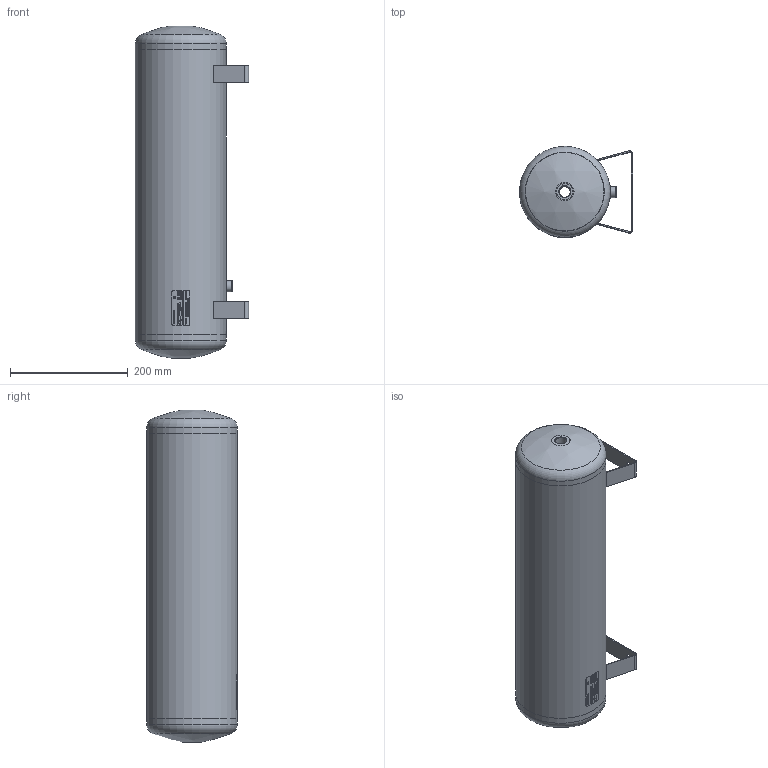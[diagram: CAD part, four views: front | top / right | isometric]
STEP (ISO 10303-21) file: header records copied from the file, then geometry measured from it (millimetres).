
FILE_DESCRIPTION(/* description */ (''),/* implementation_level */ '2;1');
FILE_NAME(/* name */ 'ATNL0100-SS 10.00L.stp',/* time_stamp */ '2022-11-07T13:24:39+01:00',/* author */ ('harm'),/* organization */ (''),/* preprocessor_version */ 'ST-DEVELOPER v19.2',/* originating_system */ 'Autodesk Inventor 2023',/* authorisation */ '');
FILE_SCHEMA (('AUTOMOTIVE_DESIGN { 1 0 10303 214 3 1 1 }'));
Length unit declared in the file: millimetre
Products named in the file (7): 11959; -; Cap; 25902; 24866; -_1; Typeplaatje ATNL0100-SS
Assembly tree (9 placements, depth 2):
  11959
    -
    Cap  x2
    25902  x2
    24866
    -_1  x2
    Typeplaatje ATNL0100-SS
Bounding box: 192 x 154.2 x 563.41 mm (x, y, z)
Volume: 610971.3 mm3; surface area: 617542.7 mm2
Topology: 9 solids, 9 shells, 2793 faces, 7451 edges, 4956 vertices
Faces by surface type: bspline 1562, plane 898, cylinder 313, cone 9, torus 7, sphere 4
Full cylindrical faces by diameter (mm): 9 x4, 11.445 x1, 18.631 x2, 19 x1, 23 x2, 26.5 x2, 31 x2, 31.5 x2, 150 x3, 154 x3
Entity records: 121155 total; most frequent: CARTESIAN_POINT 61761, ORIENTED_EDGE 14732, DIRECTION 7531, EDGE_CURVE 7366, VERTEX_POINT 4905, LINE 3335, VECTOR 3335, B_SPLINE_CURVE_WITH_KNOTS 3138
